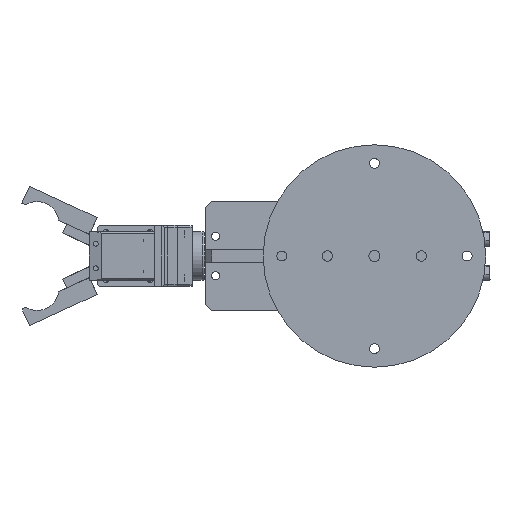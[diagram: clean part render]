
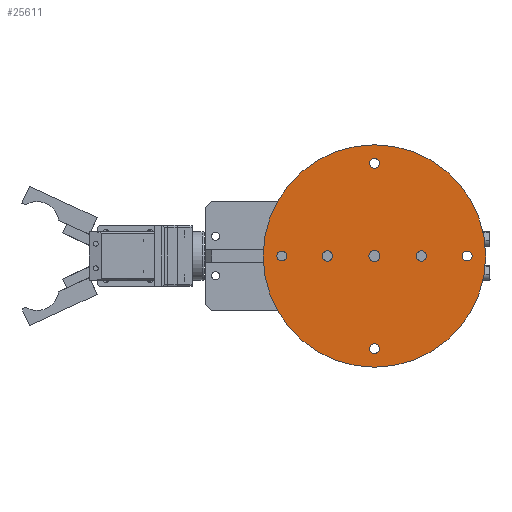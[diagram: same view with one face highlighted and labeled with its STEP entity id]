
A CAD part, front view. The second image highlights one B-rep face of the part: STEP entity #25611.
In plain terms, the highlighted planar face has unit normal (0, -1, 0) as drawn and (0, 0, 1) by its records, which use the part's own axes.
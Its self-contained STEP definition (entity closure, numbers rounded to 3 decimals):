
#1016=FACE_BOUND('',#3399,.T.);
#1017=FACE_BOUND('',#3400,.T.);
#1018=FACE_BOUND('',#3401,.T.);
#1019=FACE_BOUND('',#3402,.T.);
#1020=FACE_BOUND('',#3403,.T.);
#1021=FACE_BOUND('',#3404,.T.);
#1022=FACE_BOUND('',#3405,.T.);
#1829=FACE_OUTER_BOUND('',#3398,.T.);
#3398=EDGE_LOOP('',(#19209));
#3399=EDGE_LOOP('',(#19210));
#3400=EDGE_LOOP('',(#19211));
#3401=EDGE_LOOP('',(#19212));
#3402=EDGE_LOOP('',(#19213));
#3403=EDGE_LOOP('',(#19214));
#3404=EDGE_LOOP('',(#19215));
#3405=EDGE_LOOP('',(#19216));
#9644=CIRCLE('',#27669,4.);
#9648=CIRCLE('',#27676,4.);
#9652=CIRCLE('',#27683,4.);
#9656=CIRCLE('',#27690,4.);
#9660=CIRCLE('',#27696,90.);
#9664=CIRCLE('',#27702,4.5);
#9665=CIRCLE('',#27704,4.188);
#9666=CIRCLE('',#27706,4.188);
#11317=VERTEX_POINT('',#40041);
#11321=VERTEX_POINT('',#40054);
#11325=VERTEX_POINT('',#40067);
#11329=VERTEX_POINT('',#40080);
#11333=VERTEX_POINT('',#40092);
#11337=VERTEX_POINT('',#40103);
#11338=VERTEX_POINT('',#40107);
#11339=VERTEX_POINT('',#40111);
#14177=EDGE_CURVE('',#11317,#11317,#9644,.T.);
#14183=EDGE_CURVE('',#11321,#11321,#9648,.T.);
#14189=EDGE_CURVE('',#11325,#11325,#9652,.T.);
#14195=EDGE_CURVE('',#11329,#11329,#9656,.T.);
#14200=EDGE_CURVE('',#11333,#11333,#9660,.T.);
#14205=EDGE_CURVE('',#11337,#11337,#9664,.T.);
#14207=EDGE_CURVE('',#11338,#11338,#9665,.T.);
#14209=EDGE_CURVE('',#11339,#11339,#9666,.T.);
#19209=ORIENTED_EDGE('',*,*,#14200,.T.);
#19210=ORIENTED_EDGE('',*,*,#14177,.T.);
#19211=ORIENTED_EDGE('',*,*,#14183,.T.);
#19212=ORIENTED_EDGE('',*,*,#14189,.T.);
#19213=ORIENTED_EDGE('',*,*,#14195,.T.);
#19214=ORIENTED_EDGE('',*,*,#14209,.T.);
#19215=ORIENTED_EDGE('',*,*,#14207,.T.);
#19216=ORIENTED_EDGE('',*,*,#14205,.T.);
#24116=PLANE('',#27707);
#25611=ADVANCED_FACE('',(#1829,#1016,#1017,#1018,#1019,#1020,#1021,#1022),
#24116,.T.);
#27669=AXIS2_PLACEMENT_3D('',#40043,#32297,#32298);
#27676=AXIS2_PLACEMENT_3D('',#40056,#32313,#32314);
#27683=AXIS2_PLACEMENT_3D('',#40069,#32329,#32330);
#27690=AXIS2_PLACEMENT_3D('',#40082,#32345,#32346);
#27696=AXIS2_PLACEMENT_3D('',#40093,#32358,#32359);
#27702=AXIS2_PLACEMENT_3D('',#40104,#32371,#32372);
#27704=AXIS2_PLACEMENT_3D('',#40108,#32376,#32377);
#27706=AXIS2_PLACEMENT_3D('',#40112,#32381,#32382);
#27707=AXIS2_PLACEMENT_3D('',#40114,#32384,#32385);
#32297=DIRECTION('center_axis',(0.,0.,-1.));
#32298=DIRECTION('ref_axis',(0.,1.,0.));
#32313=DIRECTION('center_axis',(0.,0.,-1.));
#32314=DIRECTION('ref_axis',(1.,0.,0.));
#32329=DIRECTION('center_axis',(0.,0.,-1.));
#32330=DIRECTION('ref_axis',(0.,-1.,0.));
#32345=DIRECTION('center_axis',(0.,0.,-1.));
#32346=DIRECTION('ref_axis',(-1.,0.,0.));
#32358=DIRECTION('center_axis',(0.,0.,1.));
#32359=DIRECTION('ref_axis',(1.,0.,0.));
#32371=DIRECTION('center_axis',(0.,0.,-1.));
#32372=DIRECTION('ref_axis',(-1.,0.,0.));
#32376=DIRECTION('center_axis',(0.,0.,-1.));
#32377=DIRECTION('ref_axis',(-1.,0.,0.));
#32381=DIRECTION('center_axis',(0.,0.,-1.));
#32382=DIRECTION('ref_axis',(-1.,0.,0.));
#32384=DIRECTION('center_axis',(0.,0.,1.));
#32385=DIRECTION('ref_axis',(1.,0.,0.));
#40041=CARTESIAN_POINT('',(46.5,39.,15.));
#40043=CARTESIAN_POINT('Origin',(46.5,43.,15.));
#40054=CARTESIAN_POINT('',(117.5,-32.,15.));
#40056=CARTESIAN_POINT('Origin',(121.5,-32.,15.));
#40067=CARTESIAN_POINT('',(46.5,-103.,15.));
#40069=CARTESIAN_POINT('Origin',(46.5,-107.,15.));
#40080=CARTESIAN_POINT('',(-24.5,-32.,15.));
#40082=CARTESIAN_POINT('Origin',(-28.5,-32.,15.));
#40092=CARTESIAN_POINT('',(-43.5,-32.,15.));
#40093=CARTESIAN_POINT('Origin',(46.5,-32.,15.));
#40103=CARTESIAN_POINT('',(51.,-32.,15.));
#40104=CARTESIAN_POINT('Origin',(46.5,-32.,15.));
#40107=CARTESIAN_POINT('',(12.688,-32.,15.));
#40108=CARTESIAN_POINT('Origin',(8.5,-32.,15.));
#40111=CARTESIAN_POINT('',(88.688,-32.,15.));
#40112=CARTESIAN_POINT('Origin',(84.5,-32.,15.));
#40114=CARTESIAN_POINT('Origin',(46.5,-32.,15.));
